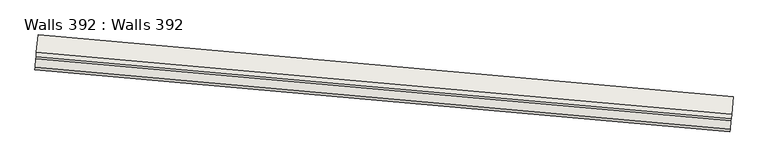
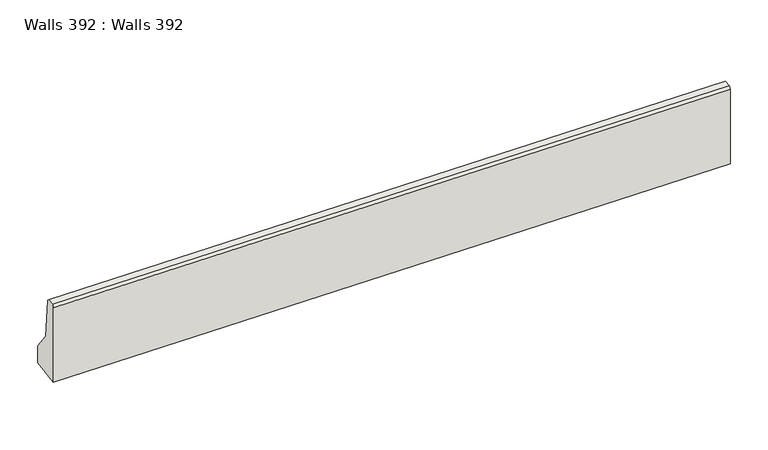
"""IFC4 building model written with IfcOpenShell, lengths in millimetres: wall geometry, Walls 392 : Walls 392."""

from ifc_helpers import new_model, si_unit, origin, place, context, project, spatial, faceted_brep, source, transform, mapped, element, save


def walls_392_walls_392_fedc1125(model_context):
    return source(origin(), model_context, "Body", "Brep", [
        faceted_brep([(-610903.8580911, -424455.0358225, 637930.0), (-610886.110626, -424255.8248101, 637680.0), (-610886.110626, -424255.8248101, 637460.0), (-610921.6055561, -424654.246835, 637460.0), (-610921.6055561, -424654.246835, 638435.0), (-610919.387123, -424629.3454584, 638460.0), (-610910.5133904, -424529.7399522, 638460.0), (-610908.2949573, -424504.8385757, 638435.0), (-602935.4175928, -425164.9344238, 638430.0), (-602939.854459, -425214.7371769, 638935.0), (-602942.0728922, -425239.6385534, 638960.0), (-602950.9466247, -425339.2440597, 638960.0), (-602953.1650578, -425364.1454362, 638935.0), (-602953.1650578, -425364.1454362, 637960.0), (-602917.6701277, -424965.7234113, 637960.0), (-602917.6701277, -424965.7234113, 638180.0)], [[[0, 1, 2, 3, 4, 5, 6, 7]], [[8, 9, 10, 11, 12, 13, 14, 15]], [[8, 15, 1, 0]], [[15, 14, 2, 1]], [[14, 13, 3, 2]], [[13, 12, 4, 3]], [[12, 11, 5, 4]], [[11, 10, 6, 5]], [[10, 9, 7, 6]], [[9, 8, 0, 7]]]),
    ])


if __name__ == "__main__":
    model = new_model("IFC4")
    model_context = context("Model", 3, world=origin())
    ifc_project = project(units=[si_unit("LENGTHUNIT", "METRE", prefix="MILLI")], contexts=[model_context])
    site = spatial("IfcSite", under=ifc_project)
    building = spatial("IfcBuilding", under=site)
    placement = place(None, origin())
    walls_392_walls_392_shape = walls_392_walls_392_fedc1125(model_context)
    element("IfcWall", 1, ObjectType="Walls 392 : Walls 392", at=placement, inside=building, context=model_context, shape_type="MappedRepresentation", body=[
        mapped(walls_392_walls_392_shape, transform((0.0, 0.0, 0.0), x_axis=(1.0, 0.0, 0.0), y_axis=(0.0, 1.0, 0.0), z_axis=(0.0, 0.0, 1.0))),
    ])
    save(model, "model.ifc")
